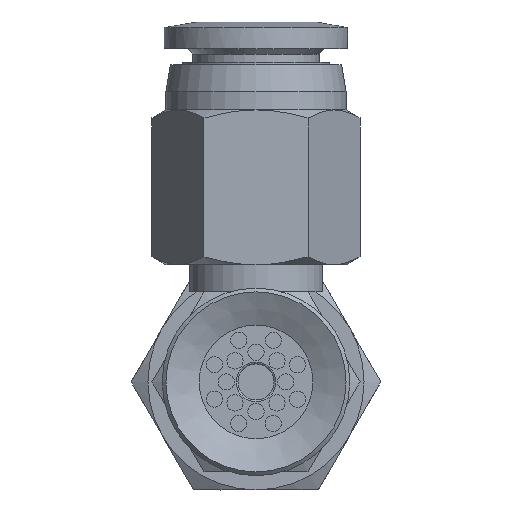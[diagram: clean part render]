
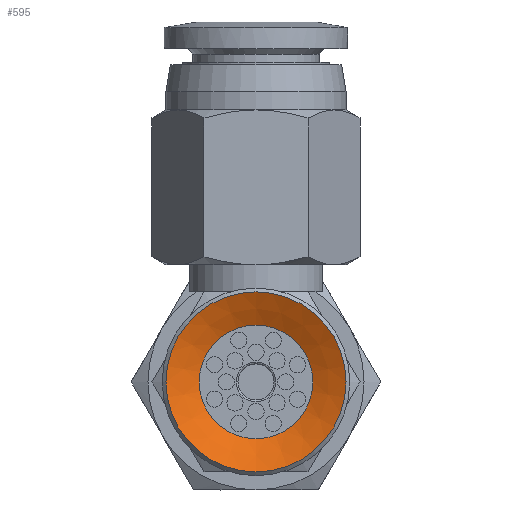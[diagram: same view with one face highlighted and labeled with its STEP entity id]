
A CAD part, front view. The second image highlights one B-rep face of the part: STEP entity #595.
In plain terms, the highlighted conical face has half-angle 64 degrees and reference radius 5 mm.
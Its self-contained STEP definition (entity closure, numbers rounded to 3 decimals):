
#595=ADVANCED_FACE('',(#1005,#1006),#1007,.F.);
#1005=FACE_BOUND('',#1709,.T.);
#1006=FACE_OUTER_BOUND('',#1710,.T.);
#1007=CONICAL_SURFACE('',#1711,5.0,1.117);
#1709=EDGE_LOOP('',(#2754));
#1710=EDGE_LOOP('',(#2755));
#1711=AXIS2_PLACEMENT_3D('',#2756,#2757,#2758);
#2754=ORIENTED_EDGE('',*,*,#3241,.T.);
#2755=ORIENTED_EDGE('',*,*,#3242,.F.);
#2756=CARTESIAN_POINT('',(0.0,0.,0.));
#2757=DIRECTION('',(0.0,0.,-1.0));
#2758=DIRECTION('',(0.0,1.0,0.));
#3241=EDGE_CURVE('',#3723,#3723,#3724,.T.);
#3242=EDGE_CURVE('',#3725,#3725,#3726,.T.);
#3723=VERTEX_POINT('',#4943);
#3724=CIRCLE('',#4944,3.155);
#3725=VERTEX_POINT('',#4945);
#3726=CIRCLE('',#4946,5.0);
#4943=CARTESIAN_POINT('',(0.0,-3.155,0.9));
#4944=AXIS2_PLACEMENT_3D('',#5428,#5429,#5430);
#4945=CARTESIAN_POINT('',(0.0,-5.0,0.));
#4946=AXIS2_PLACEMENT_3D('',#5431,#5432,#5433);
#5428=CARTESIAN_POINT('',(0.0,0.,0.9));
#5429=DIRECTION('',(0.0,0.,1.0));
#5430=DIRECTION('',(0.0,-1.0,0.));
#5431=CARTESIAN_POINT('',(0.0,0.,0.));
#5432=DIRECTION('',(0.0,0.,1.0));
#5433=DIRECTION('',(0.0,-1.0,0.));
